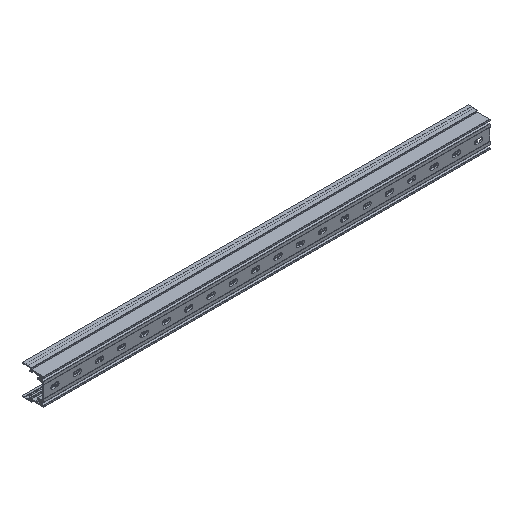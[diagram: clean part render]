
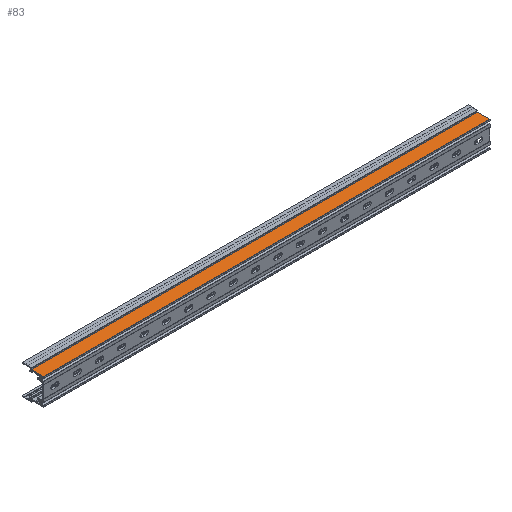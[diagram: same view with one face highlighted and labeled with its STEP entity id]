
A CAD part, isometric view. The second image highlights one B-rep face of the part: STEP entity #83.
In plain terms, the highlighted planar face has unit normal (0, 0, 1).
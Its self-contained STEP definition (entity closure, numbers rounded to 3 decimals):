
#83 = ADVANCED_FACE( '', ( #304 ), #305, .F. );
#304 = FACE_OUTER_BOUND( '', #728, .T. );
#305 = PLANE( '', #729 );
#728 = EDGE_LOOP( '', ( #1252, #1253, #1254, #1255 ) );
#729 = AXIS2_PLACEMENT_3D( '', #1256, #1257, #1258 );
#1252 = ORIENTED_EDGE( '', *, *, #2938, .T. );
#1253 = ORIENTED_EDGE( '', *, *, #2939, .F. );
#1254 = ORIENTED_EDGE( '', *, *, #2940, .F. );
#1255 = ORIENTED_EDGE( '', *, *, #2936, .T. );
#1256 = CARTESIAN_POINT( '', ( 540., 15.19, 16. ) );
#1257 = DIRECTION( '', ( 0., 0., -1. ) );
#1258 = DIRECTION( '', ( -1., 0., 0. ) );
#2936 = EDGE_CURVE( '', #3605, #3603, #3606, .T. );
#2938 = EDGE_CURVE( '', #3603, #3608, #3609, .T. );
#2939 = EDGE_CURVE( '', #3610, #3608, #3611, .T. );
#2940 = EDGE_CURVE( '', #3605, #3610, #3612, .T. );
#3603 = VERTEX_POINT( '', #4612 );
#3605 = VERTEX_POINT( '', #4615 );
#3606 = LINE( '', #4616, #4617 );
#3608 = VERTEX_POINT( '', #4620 );
#3609 = LINE( '', #4621, #4622 );
#3610 = VERTEX_POINT( '', #4623 );
#3611 = LINE( '', #4624, #4625 );
#3612 = LINE( '', #4626, #4627 );
#4612 = CARTESIAN_POINT( '', ( 0., 15.19, 16. ) );
#4615 = CARTESIAN_POINT( '', ( 540., 15.19, 16. ) );
#4616 = CARTESIAN_POINT( '', ( 540., 15.19, 16. ) );
#4617 = VECTOR( '', #5900, 1000. );
#4620 = CARTESIAN_POINT( '', ( 0., 0.3, 16. ) );
#4621 = CARTESIAN_POINT( '', ( 0., 15.19, 16. ) );
#4622 = VECTOR( '', #5902, 1000. );
#4623 = CARTESIAN_POINT( '', ( 540., 0.3, 16. ) );
#4624 = CARTESIAN_POINT( '', ( 540., 0.3, 16. ) );
#4625 = VECTOR( '', #5903, 1000. );
#4626 = CARTESIAN_POINT( '', ( 540., 15.19, 16. ) );
#4627 = VECTOR( '', #5904, 1000. );
#5900 = DIRECTION( '', ( -1., 0., 0. ) );
#5902 = DIRECTION( '', ( 0., -1., 0. ) );
#5903 = DIRECTION( '', ( -1., 0., 0. ) );
#5904 = DIRECTION( '', ( 0., -1., 0. ) );
